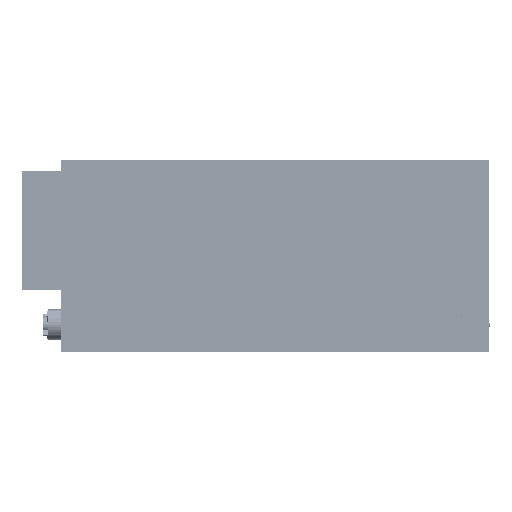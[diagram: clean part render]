
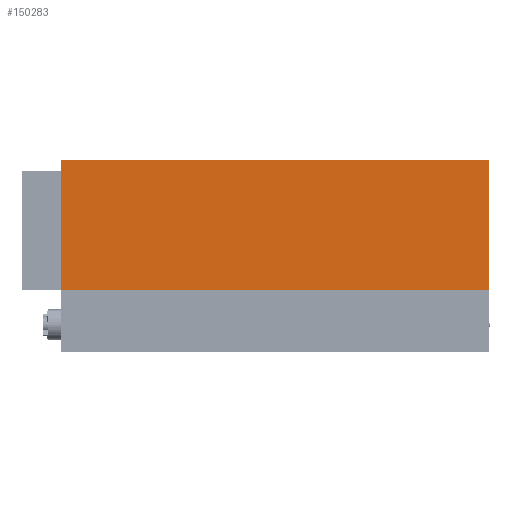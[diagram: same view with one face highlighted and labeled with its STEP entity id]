
A CAD part, top view. The second image highlights one B-rep face of the part: STEP entity #150283.
In plain terms, the highlighted planar face has unit normal (0, 0, 1).
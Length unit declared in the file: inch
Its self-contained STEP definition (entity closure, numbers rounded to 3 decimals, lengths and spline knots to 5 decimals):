
#5689 = AXIS2_PLACEMENT_3D ( 'NONE', #77419, #142645, #207830 ) ;
#8193 = VERTEX_POINT ( 'NONE', #23752 ) ;
#11148 = FACE_OUTER_BOUND ( 'NONE', #78636, .T. ) ;
#15801 = DIRECTION ( 'NONE',  ( -1., 0., 0. ) ) ;
#23752 = CARTESIAN_POINT ( 'NONE',  ( -24.75, 7.164, 2.5625 ) ) ;
#29086 = CARTESIAN_POINT ( 'NONE',  ( -24.75, 22.125, 2.5625 ) ) ;
#30127 = DIRECTION ( 'NONE',  ( 0., -1., 0. ) ) ;
#33628 = VECTOR ( 'NONE', #39424, 39.37008 ) ;
#34954 = DIRECTION ( 'NONE',  ( 1., 0., 0. ) ) ;
#38409 = ORIENTED_EDGE ( 'NONE', *, *, #147307, .T. ) ;
#39424 = DIRECTION ( 'NONE',  ( 0., -1., 0. ) ) ;
#44514 = CARTESIAN_POINT ( 'NONE',  ( 24.75, 7.164, 2.5625 ) ) ;
#57866 = LINE ( 'NONE', #179398, #106527 ) ;
#71260 = CARTESIAN_POINT ( 'NONE',  ( -24.75, 22.125, 2.5625 ) ) ;
#76149 = LINE ( 'NONE', #29086, #141733 ) ;
#77419 = CARTESIAN_POINT ( 'NONE',  ( -24.75, 22.125, 2.5625 ) ) ;
#78636 = EDGE_LOOP ( 'NONE', ( #38409, #169467, #93679, #117529 ) ) ;
#86669 = VERTEX_POINT ( 'NONE', #44514 ) ;
#93395 = VERTEX_POINT ( 'NONE', #128659 ) ;
#93679 = ORIENTED_EDGE ( 'NONE', *, *, #162537, .F. ) ;
#95333 = VERTEX_POINT ( 'NONE', #107939 ) ;
#101246 = LINE ( 'NONE', #71260, #132479 ) ;
#102737 = EDGE_CURVE ( 'NONE', #93395, #95333, #101246, .T. ) ;
#106527 = VECTOR ( 'NONE', #15801, 39.37008 ) ;
#107939 = CARTESIAN_POINT ( 'NONE',  ( 24.75, 22.125, 2.5625 ) ) ;
#117529 = ORIENTED_EDGE ( 'NONE', *, *, #102737, .F. ) ;
#128659 = CARTESIAN_POINT ( 'NONE',  ( -24.75, 22.125, 2.5625 ) ) ;
#132479 = VECTOR ( 'NONE', #34954, 39.37008 ) ;
#140557 = PLANE ( 'NONE',  #5689 ) ;
#141733 = VECTOR ( 'NONE', #30127, 39.37008 ) ;
#142645 = DIRECTION ( 'NONE',  ( 0., 0., -1. ) ) ;
#147307 = EDGE_CURVE ( 'NONE', #93395, #8193, #76149, .T. ) ;
#150283 = ADVANCED_FACE ( 'NONE', ( #11148 ), #140557, .F. ) ;
#162537 = EDGE_CURVE ( 'NONE', #95333, #86669, #188025, .T. ) ;
#169467 = ORIENTED_EDGE ( 'NONE', *, *, #194852, .F. ) ;
#179398 = CARTESIAN_POINT ( 'NONE',  ( -24.75, 7.164, 2.5625 ) ) ;
#185919 = CARTESIAN_POINT ( 'NONE',  ( 24.75, 22.125, 2.5625 ) ) ;
#188025 = LINE ( 'NONE', #185919, #33628 ) ;
#194852 = EDGE_CURVE ( 'NONE', #86669, #8193, #57866, .T. ) ;
#207830 = DIRECTION ( 'NONE',  ( -1., 0., 0. ) ) ;
